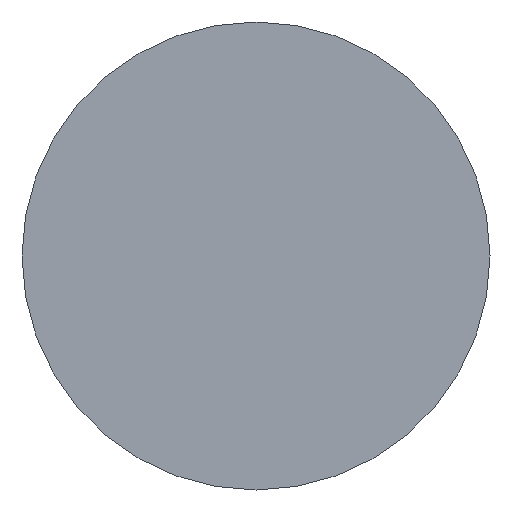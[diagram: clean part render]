
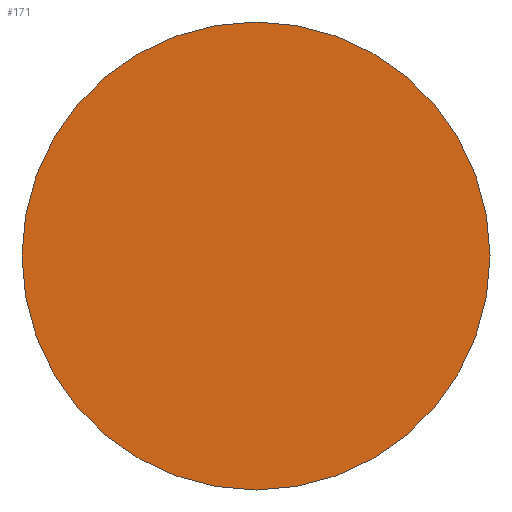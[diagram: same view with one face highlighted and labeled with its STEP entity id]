
A CAD part, left-side view. The second image highlights one B-rep face of the part: STEP entity #171.
In plain terms, the highlighted planar face has unit normal (-1, 0, 0).
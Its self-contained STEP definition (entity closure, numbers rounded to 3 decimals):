
#8 = CARTESIAN_POINT ( 'NONE',  ( 0., 0., 0. ) ) ;
#18 = DIRECTION ( 'NONE',  ( 0., 1., 0. ) ) ;
#30 = VERTEX_POINT ( 'NONE', #93 ) ;
#39 = ORIENTED_EDGE ( 'NONE', *, *, #159, .F. ) ;
#44 = AXIS2_PLACEMENT_3D ( 'NONE', #216, #73, #95 ) ;
#73 = DIRECTION ( 'NONE',  ( 1., 0., 0. ) ) ;
#86 = EDGE_LOOP ( 'NONE', ( #126, #39 ) ) ;
#93 = CARTESIAN_POINT ( 'NONE',  ( 0., 6., 0. ) ) ;
#95 = DIRECTION ( 'NONE',  ( 0., 1., 0. ) ) ;
#121 = VERTEX_POINT ( 'NONE', #181 ) ;
#126 = ORIENTED_EDGE ( 'NONE', *, *, #183, .F. ) ;
#131 = PLANE ( 'NONE',  #248 ) ;
#159 = EDGE_CURVE ( 'NONE', #121, #30, #243, .T. ) ;
#171 = ADVANCED_FACE ( 'NONE', ( #259 ), #131, .T. ) ;
#181 = CARTESIAN_POINT ( 'NONE',  ( 0., -6., 0. ) ) ;
#183 = EDGE_CURVE ( 'NONE', #30, #121, #251, .T. ) ;
#214 = DIRECTION ( 'NONE',  ( 1., 0., 0. ) ) ;
#216 = CARTESIAN_POINT ( 'NONE',  ( 0., 0., 0. ) ) ;
#237 = CARTESIAN_POINT ( 'NONE',  ( 0., 0., 0. ) ) ;
#243 = CIRCLE ( 'NONE', #44, 6. ) ;
#248 = AXIS2_PLACEMENT_3D ( 'NONE', #237, #258, #261 ) ;
#251 = CIRCLE ( 'NONE', #262, 6. ) ;
#258 = DIRECTION ( 'NONE',  ( -1., 0., 0. ) ) ;
#259 = FACE_OUTER_BOUND ( 'NONE', #86, .T. ) ;
#261 = DIRECTION ( 'NONE',  ( 0., -1., 0. ) ) ;
#262 = AXIS2_PLACEMENT_3D ( 'NONE', #8, #214, #18 ) ;
